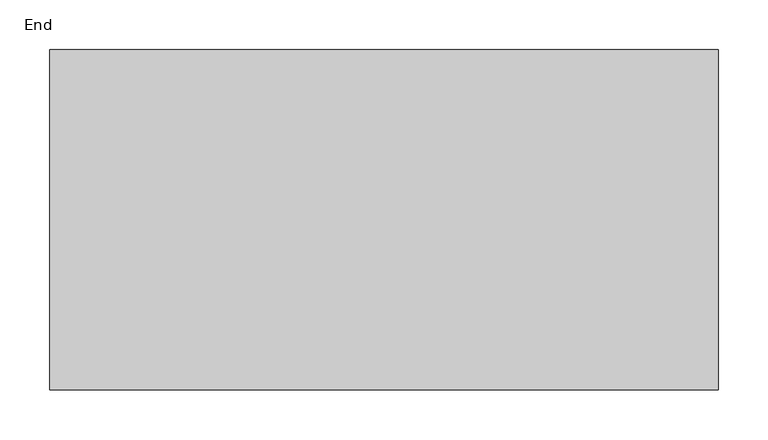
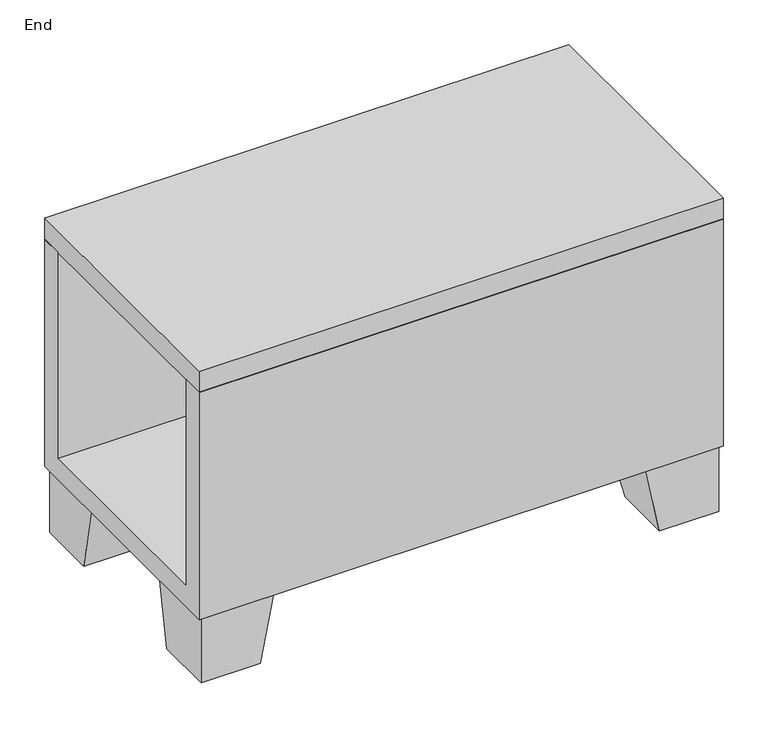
"""IFC4 building model written with IfcOpenShell, lengths in millimetres: furniture geometry, Steelcase Turnstone - Jenny - Table - Occasional : End."""

from ifc_helpers import new_model, si_unit, point, frame, frame_2d, origin, origin_with_axes, place, context, project, spatial, polyline, circle_curve, trimmed, segment, composite_curve, outline, extrude, faceted_brep, source, transform, mapped, element, save


def end_8f266089(model_context):
    return source(origin(), model_context, "Body", "SolidModel", [
        extrude(outline(composite_curve([segment(trimmed(circle_curve(frame_2d((630.1468079, -301.5033989)), 14.5101608), [point((615.636647, -301.5033989))], [point((644.6569687, -301.5033989))], False, "CARTESIAN"), True, "CONTINUOUS"), segment(trimmed(circle_curve(frame_2d((630.1468079, -301.5033989)), 14.5101608), [point((644.6569687, -301.5033989))], [point((615.636647, -301.5033989))], False, "CARTESIAN"), True, "CONTINUOUS")], self_intersect=False)), origin_with_axes(), (0.0, 0.0, 1.0), 6.8716872),
        extrude(outline(composite_curve([segment(trimmed(circle_curve(frame_2d((42.2375381, -302.0530746)), 14.5104515), [point((27.7270866, -302.0530746))], [point((56.7479897, -302.0530746))], False, "CARTESIAN"), True, "CONTINUOUS"), segment(trimmed(circle_curve(frame_2d((42.2375381, -302.0530746)), 14.5104515), [point((56.7479897, -302.0530746))], [point((27.7270866, -302.0530746))], False, "CARTESIAN"), True, "CONTINUOUS")], self_intersect=False)), origin_with_axes(), (0.0, 0.0, 1.0), 6.8716872),
        extrude(outline(composite_curve([segment(trimmed(circle_curve(frame_2d((631.2729019, -40.9195953)), 14.2541068), [point((617.0187951, -40.9195953))], [point((645.5270087, -40.9195953))], False, "CARTESIAN"), True, "CONTINUOUS"), segment(trimmed(circle_curve(frame_2d((631.2729019, -40.9195953)), 14.2541068), [point((645.5270087, -40.9195953))], [point((617.0187951, -40.9195953))], False, "CARTESIAN"), True, "CONTINUOUS")], self_intersect=False)), origin_with_axes(), (0.0, 0.0, 1.0), 6.8716872),
        extrude(outline(composite_curve([segment(trimmed(circle_curve(frame_2d((43.3636322, -40.3696289)), 14.5104515), [point((28.8531807, -40.3696289))], [point((57.8740837, -40.3696289))], False, "CARTESIAN"), True, "CONTINUOUS"), segment(trimmed(circle_curve(frame_2d((43.3636322, -40.3696289)), 14.5104515), [point((57.8740837, -40.3696289))], [point((28.8531807, -40.3696289))], False, "CARTESIAN"), True, "CONTINUOUS")], self_intersect=False)), origin_with_axes(), (0.0, 0.0, 1.0), 6.8716872),
        faceted_brep([(4.1375381, -263.9530746, 6.8716872), (80.3375381, -263.9530746, 6.8716872), (80.3375381, -340.1530746, 6.8716872), (4.1375381, -340.1530746, 6.8716872), (4.1375381, -246.7320328, 95.5443588), (4.1375381, -340.1530746, 95.5443588), (97.55858, -340.1530746, 95.5443588), (97.55858, -246.7320328, 95.5443588)], [[[0, 1, 2, 3]], [[4, 5, 6, 7]], [[4, 7, 1, 0]], [[7, 6, 2, 1]], [[6, 5, 3, 2]], [[5, 4, 0, 3]]]),
        faceted_brep([(4.1375381, -79.2117348, 6.8716872), (4.1375381, -3.0117348, 6.8716872), (80.3375381, -3.0117348, 6.8716872), (80.3375381, -79.2117348, 6.8716872), (4.1375381, -96.4327766, 95.5443588), (97.55858, -96.4327766, 95.5443588), (97.55858, -3.0117348, 95.5443588), (4.1375381, -3.0117348, 95.5443588)], [[[0, 1, 2, 3]], [[4, 5, 6, 7]], [[4, 7, 1, 0]], [[7, 6, 2, 1]], [[6, 5, 3, 2]], [[5, 4, 0, 3]]]),
        faceted_brep([(668.9624619, -263.9530746, 6.8716872), (668.9624619, -340.1530746, 6.8716872), (592.7624619, -340.1530746, 6.8716872), (592.7624619, -263.9530746, 6.8716872), (668.9624619, -246.7320328, 95.5443588), (575.54142, -246.7320328, 95.5443588), (575.54142, -340.1530746, 95.5443588), (668.9624619, -340.1530746, 95.5443588)], [[[0, 1, 2, 3]], [[4, 5, 6, 7]], [[4, 7, 1, 0]], [[7, 6, 2, 1]], [[6, 5, 3, 2]], [[5, 4, 0, 3]]]),
        faceted_brep([(668.9624619, -79.2117348, 6.8716872), (592.7624619, -79.2117348, 6.8716872), (592.7624619, -3.0117348, 6.8716872), (668.9624619, -3.0117348, 6.8716872), (668.9624619, -96.4327766, 95.5443588), (668.9624619, -3.0117348, 95.5443588), (575.54142, -3.0117348, 95.5443588), (575.54142, -96.4327766, 95.5443588)], [[[0, 1, 2, 3]], [[4, 5, 6, 7]], [[4, 7, 1, 0]], [[7, 6, 2, 1]], [[6, 5, 3, 2]], [[5, 4, 0, 3]]]),
        extrude(outline(polyline([(0.0, 95.758), (-342.9, 95.758), (-342.9, 404.5799475), (-314.3250727, 404.5799475), (-314.3250727, 124.0788367), (-28.575, 124.0788367), (-28.575, 404.5799475), (0.0, 404.5799475), (0.0, 95.758)])), frame((0.0, 0.0, 0.0), z_axis=(1.0, 0.0, 0.0), x_axis=(0.0, 1.0, 0.0)), (0.0, 0.0, 1.0), 673.1),
        extrude(outline(polyline([(673.1, 0.0), (673.1, -342.9), (0.0, -342.9), (0.0, 0.0), (673.1, 0.0)])), frame((0.0, 0.0, 404.5799475), z_axis=(0.0, 0.0, 1.0), x_axis=(1.0, 0.0, 0.0)), (0.0, 0.0, 1.0), 28.575),
    ])


if __name__ == "__main__":
    model = new_model("IFC4")
    model_context = context("Model", 3, world=origin())
    ifc_project = project(units=[si_unit("LENGTHUNIT", "METRE", prefix="MILLI")], contexts=[model_context])
    site = spatial("IfcSite", under=ifc_project)
    building = spatial("IfcBuilding", under=site)
    placement = place(None, origin())
    end_shape = end_8f266089(model_context)
    element("IfcFurniture", 1, ObjectType="Steelcase Turnstone - Jenny - Table - Occasional : End", at=placement, inside=building, context=model_context, shape_type="MappedRepresentation", body=[
        mapped(end_shape, transform((0.0, 0.0, 0.0), x_axis=(1.0, 0.0, 0.0), y_axis=(0.0, 1.0, 0.0), z_axis=(0.0, 0.0, 1.0))),
    ])
    save(model, "model.ifc")
